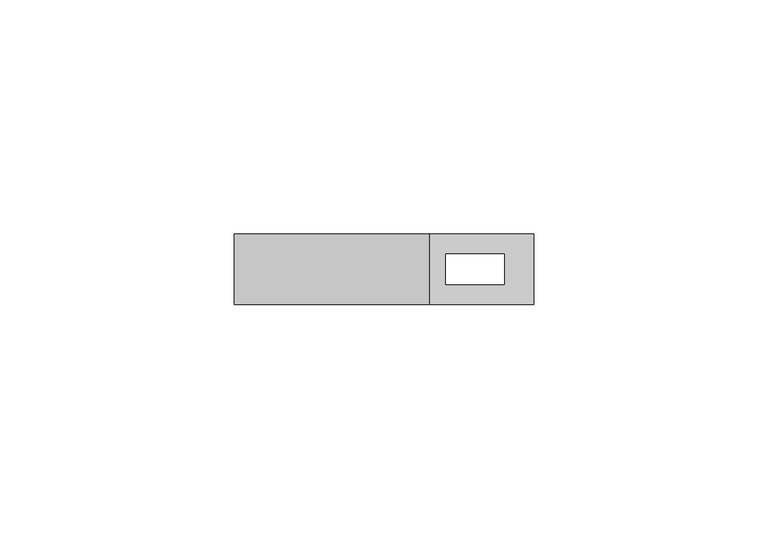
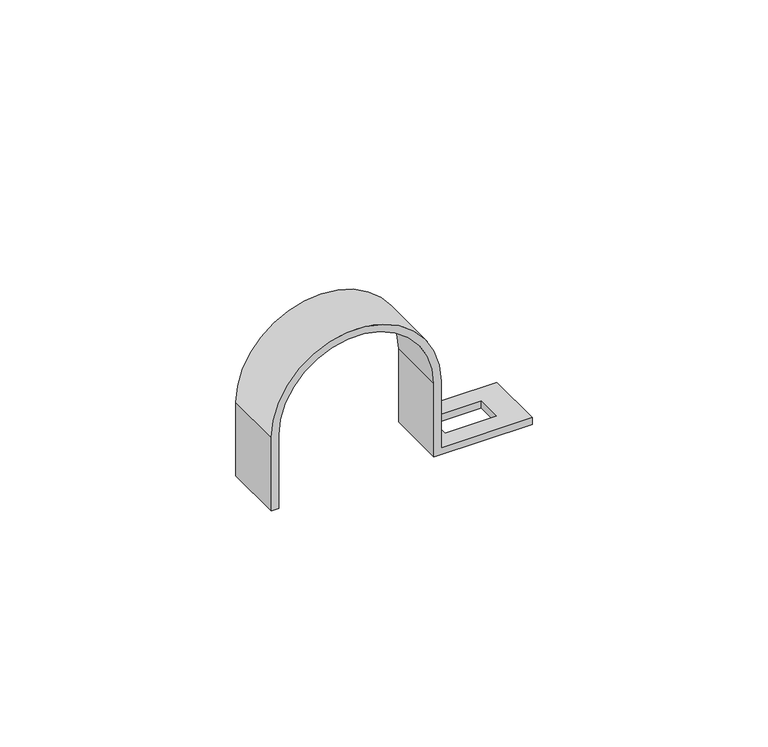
"""IFC4 building model written with IfcOpenShell, lengths in millimetres: cable carrier fitting geometry, КНС_ДержательОцинкованныйОдносторонний_DKC : д.38 - 40мм."""

import ifcopenshell
import ifcopenshell.guid

model = None  # the IFC model being written
_history = None  # IfcOwnerHistory: only IFC2X3 demands one
_inside = {}  # id of a spatial element -> (the spatial element, [elements in it])
_under = {}  # id of a project, library or spatial element -> (it, [spatial elements below it])
_declared = {}  # id of a project -> (the project, [libraries it declares])
_typed = {}  # id of a type object -> (the type object, [elements of that type])
_made_of = {}  # id of a material, layer set ... -> (it, [elements and type objects made of it])


def new_model(schema):
    """Start an empty IFC model of exactly this schema.

    Asked for "IFC4X3", IfcOpenShell would pick the latest addendum, in which some entities
    have other attributes; the version numbers below select the first issue.
    IFC2X3 requires an IfcOwnerHistory on every rooted entity: one is made here for all.
    """
    global model, _history
    if schema == "IFC4X3":
        model = ifcopenshell.file(schema_version=(4, 3, 0, 0))
    else:
        model = ifcopenshell.file(schema=schema)
    _inside.clear()
    _under.clear()
    _declared.clear()
    _typed.clear()
    _made_of.clear()
    _history = None
    if model.schema == "IFC2X3":
        org = make("IfcOrganization", Name="unknown")
        user = make(
            "IfcPersonAndOrganization",
            ThePerson=make("IfcPerson", FamilyName="unknown"),
            TheOrganization=org,
        )
        app = make(
            "IfcApplication",
            ApplicationDeveloper=org,
            Version="unknown",
            ApplicationFullName="unknown",
            ApplicationIdentifier="unknown",
        )
        _history = make(
            "IfcOwnerHistory",
            OwningUser=user,
            OwningApplication=app,
            ChangeAction="ADDED",
            CreationDate=0,
        )
    return model


def make(cls, **values):
    """One entity of the class cls with the attributes given. An attribute that is None is left unset."""
    return model.create_entity(
        cls, **{name: value for name, value in values.items() if value is not None}
    )


def rooted(cls, **values):
    """An entity with a GlobalId (a new one), such as an element, a storey or a relation."""
    return make(cls, GlobalId=ifcopenshell.guid.new(), OwnerHistory=_history, **values)


def si_unit(unit_type, name, prefix=None):
    """IfcSIUnit, for example si_unit("LENGTHUNIT", "METRE", prefix="MILLI")."""
    return make("IfcSIUnit", UnitType=unit_type, Prefix=prefix, Name=name)


def assignment(units):
    """IfcUnitAssignment: the units of a project."""
    return None if units is None else make("IfcUnitAssignment", Units=units)


def point(xyz):
    """IfcCartesianPoint."""
    return None if xyz is None else make("IfcCartesianPoint", Coordinates=xyz)


def direction(xyz):
    """IfcDirection."""
    return None if xyz is None else make("IfcDirection", DirectionRatios=xyz)


def frame(location, z_axis=None, x_axis=None):
    """IfcAxis2Placement3D, a coordinate frame: its origin and axes. An axis left out is left unset."""
    return make(
        "IfcAxis2Placement3D",
        Location=point(location),
        Axis=direction(z_axis),
        RefDirection=direction(x_axis),
    )


def origin():
    """The frame at (0, 0, 0) with its axes left unset."""
    return frame((0.0, 0.0, 0.0))


def place(relative_to, where):
    """IfcLocalPlacement: puts the frame where relative to a parent placement (None: the world)."""
    return make(
        "IfcLocalPlacement", PlacementRelTo=relative_to, RelativePlacement=where
    )


def context(
    kind, dimensions, precision=None, world=None, true_north=None, identifier=None
):
    """IfcGeometricRepresentationContext, for example the 3D "Model" context."""
    return make(
        "IfcGeometricRepresentationContext",
        ContextIdentifier=identifier,
        ContextType=kind,
        CoordinateSpaceDimension=dimensions,
        Precision=precision,
        WorldCoordinateSystem=world,
        TrueNorth=true_north,
    )


def project(units=None, contexts=None):
    """IfcProject with its units and contexts."""
    return rooted(
        "IfcProject",
        Name="project",
        RepresentationContexts=contexts,
        UnitsInContext=assignment(units),
    )


def spatial(cls, under=None, at=None, **own):
    """A site, building, storey or space (cls), placed at a placement, below another one or the project."""
    s = rooted(cls, ObjectPlacement=at, **own)
    if under is not None:
        _under.setdefault(under.id(), (under, []))[1].append(s)
    return s


def polyline(points):
    """IfcPolyline through the points."""
    return make("IfcPolyline", Points=[point(p) for p in points])


def circle_curve(where, radius):
    """IfcCircle in the frame where."""
    return make("IfcCircle", Position=where, Radius=radius)


def shape(context_of_items, identifier, shape_type, items):
    """IfcShapeRepresentation: the items that make up one representation, for example the "Body"."""
    return make(
        "IfcShapeRepresentation",
        ContextOfItems=context_of_items,
        RepresentationIdentifier=identifier,
        RepresentationType=shape_type,
        Items=items,
    )


def source(mapping_origin, context_of_items, identifier, shape_type, items):
    """IfcRepresentationMap: a shape defined once, which mapped items show again and again."""
    return make(
        "IfcRepresentationMap",
        MappingOrigin=mapping_origin,
        MappedRepresentation=shape(context_of_items, identifier, shape_type, items),
    )


def transform(
    local_origin,
    x_axis=None,
    y_axis=None,
    z_axis=None,
    scale=None,
    scale2=None,
    scale3=None,
    uniform=True,
):
    """IfcCartesianTransformationOperator3D, or its non-uniform kind. x_axis, y_axis, z_axis: its Axis1, 2, 3."""
    if uniform:
        return make(
            "IfcCartesianTransformationOperator3D",
            Axis1=direction(x_axis),
            Axis2=direction(y_axis),
            LocalOrigin=point(local_origin),
            Scale=scale,
            Axis3=direction(z_axis),
        )
    return make(
        "IfcCartesianTransformationOperator3DnonUniform",
        Axis1=direction(x_axis),
        Axis2=direction(y_axis),
        LocalOrigin=point(local_origin),
        Scale=scale,
        Axis3=direction(z_axis),
        Scale2=scale2,
        Scale3=scale3,
    )


def mapped(mapping_source, mapping_target):
    """IfcMappedItem: shows the shape of a source again, moved by a transform."""
    return make(
        "IfcMappedItem", MappingSource=mapping_source, MappingTarget=mapping_target
    )


def made_of(thing, what):
    """Note that an element or type object is made of a material, layer set ...; save() writes the relation."""
    if what is not None:
        _made_of.setdefault(what.id(), (what, []))[1].append(thing)
    return thing


def element(
    cls,
    number,
    at=None,
    inside=None,
    cuts=None,
    type_object=None,
    material=None,
    context=None,
    identifier="Body",
    shape_type=None,
    held_by="IfcProductDefinitionShape",
    body=None,
    shapes=None,
    **own,
):
    """One element of the class cls, such as IfcWall. Its Tag is "e" and its number.

    at: its placement. inside: the storey or other place that contains it. cuts: it is an
    opening in that element (IfcRelVoidsElement). A single representation is given by context,
    identifier, shape_type and body (its items); several are given by shapes. held_by: the class
    of the entity that holds the representations. save() writes the other relations.
    """
    e = rooted(cls, Tag="e%d" % number, ObjectPlacement=at, **own)
    if body is not None:
        shapes = [shape(context, identifier, shape_type, body)]
    if shapes is not None:
        e.Representation = make(held_by, Representations=shapes)
    if inside is not None:
        _inside.setdefault(inside.id(), (inside, []))[1].append(e)
    if cuts is not None:
        rooted(
            "IfcRelVoidsElement", RelatingBuildingElement=cuts, RelatedOpeningElement=e
        )
    if type_object is not None:
        _typed.setdefault(type_object.id(), (type_object, []))[1].append(e)
    return made_of(e, material)


def aggregate(whole, parts):
    """IfcRelAggregates: a whole, such as a stair, and the parts it consists of."""
    return rooted("IfcRelAggregates", RelatingObject=whole, RelatedObjects=parts)


def save(model, path):
    """Write the relations noted so far, then the file.

    IfcRelAggregates (storeys below a building ...), IfcRelContainedInSpatialStructure (elements
    in a storey), IfcRelDefinesByType, IfcRelAssociatesMaterial and IfcRelDeclares: one each for
    every whole, place, type object, material and project.
    """
    for whole, parts in _under.values():
        aggregate(whole, parts)
    for where, things in _inside.values():
        rooted(
            "IfcRelContainedInSpatialStructure",
            RelatedElements=things,
            RelatingStructure=where,
        )
    for kind, things in _typed.values():
        rooted("IfcRelDefinesByType", RelatedObjects=things, RelatingType=kind)
    for what, things in _made_of.values():
        rooted("IfcRelAssociatesMaterial", RelatedObjects=things, RelatingMaterial=what)
    for by, libraries in _declared.values():
        rooted("IfcRelDeclares", RelatingContext=by, RelatedDefinitions=libraries)
    model.write(path)


def plane_surface(at):
    """IfcPlane: the flat surface through the origin of the frame at, square to its z axis."""
    return make("IfcPlane", Position=at)


def cylinder_surface(at, radius):
    """IfcCylindricalSurface: all points at the distance radius from the z axis of the frame at."""
    return make("IfcCylindricalSurface", Position=at, Radius=radius)


def revolved_surface(curve, axis_point, axis_direction):
    """IfcSurfaceOfRevolution: the curve turned about the line through axis_point along axis_direction."""
    return make(
        "IfcSurfaceOfRevolution",
        SweptCurve=make("IfcArbitraryOpenProfileDef", ProfileType="CURVE", Curve=curve),
        AxisPosition=make("IfcAxis1Placement", Location=point(axis_point), Axis=direction(axis_direction)),
    )


def advanced_brep(points, edges, surfaces, faces):
    """IfcAdvancedBrep: a solid bounded by faces that lie on surfaces and meet in shared edges.

    An edge is (start, end): straight between two places in points (the first is 0);
    or (start, end, curve); or (start, end, curve, False) where it runs against its curve.
    A face is (place in surfaces, loops), or (place, loops, False) where it looks against
    its surface's normal. A loop lists edges by number (the first is 1), with a minus sign
    where the edge is run from its end to its start. The first loop is the outer one.
    """
    corners = [point(p) for p in points]
    vertices = [make("IfcVertexPoint", VertexGeometry=c) for c in corners]
    made = []
    for start, end, *more in edges:
        made.append(
            make(
                "IfcEdgeCurve",
                EdgeStart=vertices[start],
                EdgeEnd=vertices[end],
                EdgeGeometry=more[0] if more else make("IfcPolyline", Points=[corners[start], corners[end]]),
                SameSense=more[1] if len(more) > 1 else True,
            )
        )
    hull = []
    for where, loops, *sense in faces:
        bounds = []
        for j, loop in enumerate(loops):
            ring = [make("IfcOrientedEdge", EdgeElement=made[abs(k) - 1], Orientation=k > 0) for k in loop]
            bounds.append(
                make(
                    "IfcFaceOuterBound" if j == 0 else "IfcFaceBound",
                    Bound=make("IfcEdgeLoop", EdgeList=ring),
                    Orientation=True,
                )
            )
        hull.append(make("IfcAdvancedFace", Bounds=bounds, FaceSurface=surfaces[where], SameSense=sense[0] if sense else True))
    return make("IfcAdvancedBrep", Outer=make("IfcClosedShell", CfsFaces=hull))


def cable_carrier_fitting_eac3f454(model_context):
    return source(origin(), model_context, "Body", "AdvancedBrep", [
        advanced_brep(
        [(43.0, -7.5, 0.0), (43.0, -7.5, 1.8), (20.8, -7.5, 1.8), (20.8, -7.5, 19.0), (-20.8, -7.5, 19.0), (-20.8, -7.5, 0.0), (-19.0, -7.5, 0.0), (-19.0, -7.5, 19.0), (19.0, -7.5, 19.0), (19.0, -7.5, 0.0), (43.0, 7.5, 0.0), (19.0, 7.5, 0.0), (19.0, 7.5, 19.0), (-19.0, 7.5, 19.0), (-19.0, 7.5, 0.0), (-20.8, 7.5, 0.0), (-20.8, 7.5, 19.0), (20.8, 7.5, 19.0), (20.8, 7.5, 1.8), (43.0, 7.5, 1.8), (36.75, -3.25, 1.8), (24.25, -3.25, 1.8), (24.25, 3.25, 1.8), (36.75, 3.25, 1.8), (24.25, -3.25, 0.0), (36.75, -3.25, 0.0), (36.75, 3.25, 0.0), (24.25, 3.25, 0.0)],
        [
            (0, 1),
            (1, 2),
            (2, 3),
            (3, 4, circle_curve(frame((0.0, -7.5, 19.0), z_axis=(0.0, -1.0, 0.0), x_axis=(1.0, 0.0, 0.0)), 20.8)),
            (4, 5),
            (5, 6),
            (6, 7),
            (7, 8, circle_curve(frame((0.0, -7.5, 19.0), z_axis=(0.0, 1.0, 0.0), x_axis=(1.0, 0.0, 0.0)), 19.0)),
            (8, 9),
            (9, 0),
            (10, 11),
            (11, 12),
            (12, 13, circle_curve(frame((0.0, 7.5, 19.0), z_axis=(0.0, -1.0, 0.0), x_axis=(1.0, 0.0, 0.0)), 19.0)),
            (13, 14),
            (14, 15),
            (15, 16),
            (16, 17, circle_curve(frame((0.0, 7.5, 19.0), z_axis=(0.0, 1.0, 0.0), x_axis=(1.0, 0.0, 0.0)), 20.8)),
            (17, 18),
            (18, 19),
            (19, 10),
            (0, 10),
            (19, 1),
            (18, 2),
            (20, 21),
            (21, 22),
            (22, 23),
            (23, 20),
            (17, 3),
            (16, 4),
            (15, 5),
            (14, 6),
            (13, 7),
            (12, 8),
            (11, 9),
            (24, 25),
            (25, 26),
            (26, 27),
            (27, 24),
            (24, 21),
            (20, 25),
            (23, 26),
            (22, 27),
        ],
        [
            plane_surface(frame((43.0, -7.5, 1.8), z_axis=(0.0, -1.0, 0.0), x_axis=(0.0, 0.0, 1.0))),
            plane_surface(frame((43.0, 7.5, 1.8), z_axis=(0.0, 1.0, 0.0), x_axis=(0.0, 0.0, -1.0))),
            plane_surface(frame((43.0, -7.5, 0.0), z_axis=(1.0, 0.0, 0.0), x_axis=(0.0, 1.0, 0.0))),
            plane_surface(frame((43.0, -7.5, 1.8), z_axis=(0.0, 0.0, 1.0), x_axis=(0.0, 1.0, 0.0))),
            plane_surface(frame((20.8, -7.5, 1.8), z_axis=(1.0, 0.0, 0.0), x_axis=(0.0, 1.0, 0.0))),
            cylinder_surface(frame((0.0, 7.5, 19.0), z_axis=(0.0, -1.0, 0.0), x_axis=(1.0, 0.0, 0.0)), 20.8),
            plane_surface(frame((-20.8, -7.5, 19.0), z_axis=(-1.0, 0.0, 0.0), x_axis=(0.0, 1.0, 0.0))),
            plane_surface(frame((-20.8, -7.5, 0.0), z_axis=(0.0, 0.0, -1.0), x_axis=(0.0, 1.0, 0.0))),
            plane_surface(frame((-19.0, -7.5, 0.0), z_axis=(1.0, 0.0, 0.0), x_axis=(0.0, 1.0, 0.0))),
            revolved_surface(polyline([(19.0, 7.5, 19.0), (19.0, -7.5, 19.0)]), (0.0, 7.5, 19.0), (0.0, 1.0, 0.0)),
            plane_surface(frame((19.0, -7.5, 19.0), z_axis=(-1.0, 0.0, 0.0), x_axis=(0.0, 1.0, 0.0))),
            plane_surface(frame((19.0, -7.5, 0.0), z_axis=(0.0, 0.0, -1.0), x_axis=(0.0, 1.0, 0.0))),
            plane_surface(frame((24.25, -3.25, 21.959409), z_axis=(0.0, 1.0, 0.0), x_axis=(0.0, 0.0, -1.0))),
            plane_surface(frame((36.75, -3.25, 21.959409), z_axis=(-1.0, 0.0, 0.0), x_axis=(0.0, 0.0, -1.0))),
            plane_surface(frame((36.75, 3.25, 21.959409), z_axis=(0.0, -1.0, 0.0), x_axis=(0.0, 0.0, -1.0))),
            plane_surface(frame((24.25, 3.25, 21.959409), z_axis=(1.0, 0.0, 0.0), x_axis=(0.0, 0.0, -1.0))),
        ],
        [
            (0, [[1, 2, 3, 4, 5, 6, 7, 8, 9, 10]]),
            (1, [[11, 12, 13, 14, 15, 16, 17, 18, 19, 20]]),
            (2, [[-1, 21, -20, 22]]),
            (3, [[-2, -22, -19, 23], [24, 25, 26, 27]]),
            (4, [[-3, -23, -18, 28]]),
            (5, [[-4, -28, -17, 29]]),
            (6, [[-5, -29, -16, 30]]),
            (7, [[-6, -30, -15, 31]]),
            (8, [[-7, -31, -14, 32]]),
            (9, [[-8, -32, -13, 33]]),
            (10, [[-9, -33, -12, 34]]),
            (11, [[-10, -34, -11, -21], [35, 36, 37, 38]]),
            (12, [[39, -24, 40, -35]]),
            (13, [[-40, -27, 41, -36]]),
            (14, [[-41, -26, 42, -37]]),
            (15, [[-39, -38, -42, -25]]),
        ],
    ),
    ])


if __name__ == "__main__":
    model = new_model("IFC4")
    model_context = context("Model", 3, world=origin())
    ifc_project = project(units=[si_unit("LENGTHUNIT", "METRE", prefix="MILLI")], contexts=[model_context])
    site = spatial("IfcSite", under=ifc_project)
    building = spatial("IfcBuilding", under=site)
    placement = place(None, origin())
    cable_carrier_fitting_shape = cable_carrier_fitting_eac3f454(model_context)
    element("IfcCableCarrierFitting", 1, ObjectType="КНС_ДержательОцинкованныйОдносторонний_DKC : д.38 - 40мм", at=placement, inside=building, context=model_context, shape_type="MappedRepresentation", body=[
        mapped(cable_carrier_fitting_shape, transform((0.0, 0.0, 0.0), x_axis=(1.0, 0.0, 0.0), y_axis=(0.0, 1.0, 0.0), z_axis=(0.0, 0.0, 1.0))),
    ])
    save(model, "model.ifc")
